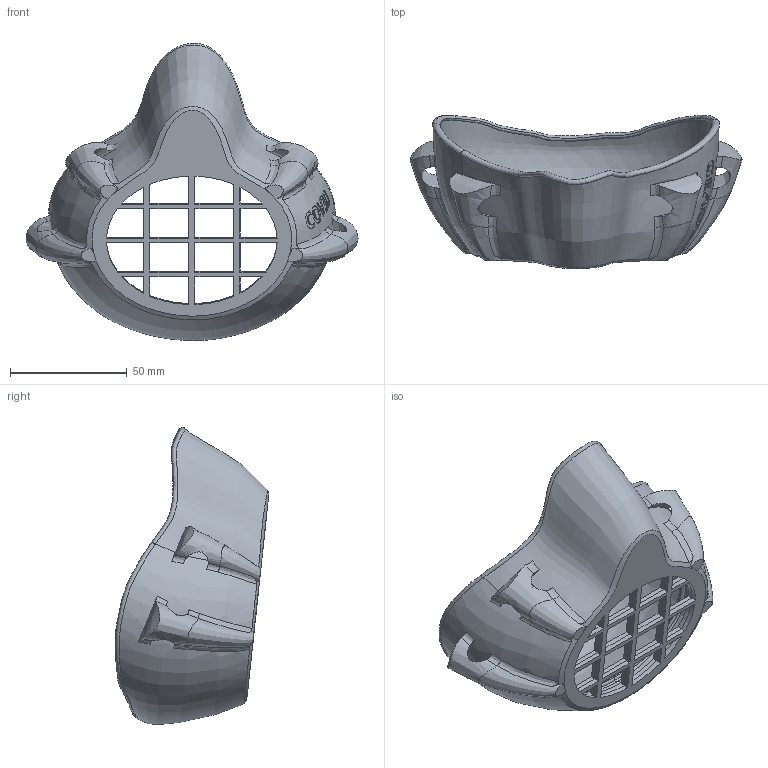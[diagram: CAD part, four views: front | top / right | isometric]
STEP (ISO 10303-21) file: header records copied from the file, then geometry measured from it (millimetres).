
FILE_DESCRIPTION(/* description */ (''),/* implementation_level */ '2;1');
FILE_NAME(/* name */ 'M-WIDE~2',/* time_stamp */ '2020-04-10T21:38:23+03:00',/* author */ (''),/* organization */ (''),/* preprocessor_version */ 'ST-DEVELOPER v16.5',/* originating_system */ '',/* authorisation */ '');
FILE_SCHEMA (('AUTOMOTIVE_DESIGN'));
Length unit declared in the file: millimetre
Products named in the file (1): Document
Bounding box: 142.02 x 65.76 x 127.1 mm (x, y, z)
Volume: 63340.2 mm3; surface area: 51475.9 mm2
Topology: 1 solids, 1 shells, 312 faces, 797 edges, 489 vertices
Faces by surface type: bspline 209, plane 103
Entity records: 184217 total; most frequent: CARTESIAN_POINT 179229, ORIENTED_EDGE 1594, EDGE_CURVE 797, B_SPLINE_CURVE_WITH_KNOTS 625, VERTEX_POINT 489, EDGE_LOOP 354, ADVANCED_FACE 312, FACE_OUTER_BOUND 312
